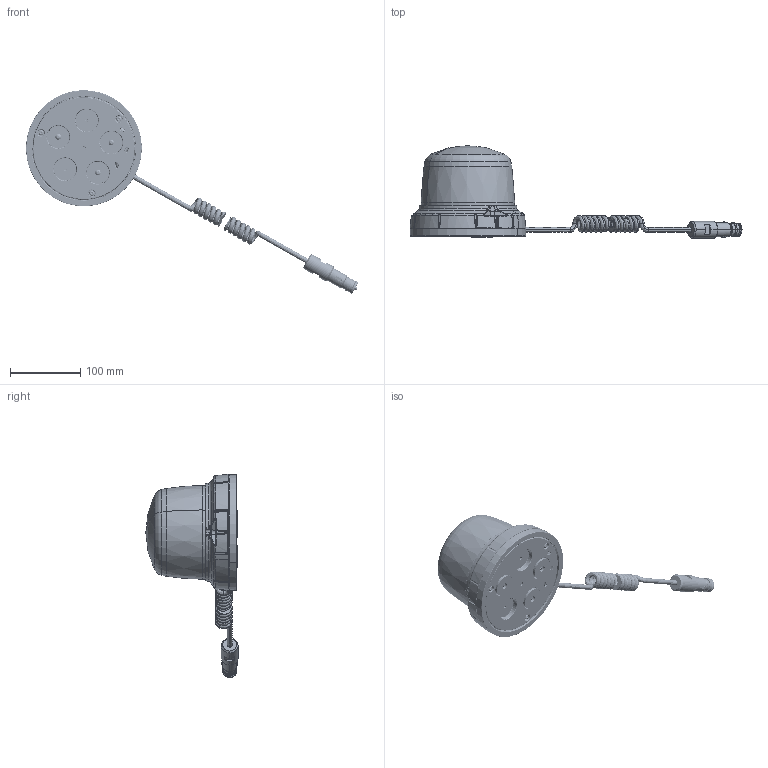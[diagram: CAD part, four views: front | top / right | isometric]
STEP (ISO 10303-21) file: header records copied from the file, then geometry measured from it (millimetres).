
FILE_DESCRIPTION(('CATIA V5 STEP Exchange','CAx-IF Rec.Pracs.--- Model Styling and Organization---1.5--- 2016-08-15','CAx-IF Rec.Pracs.---Supplemental Geometry---1.0---2011-11-01','CAx-IF Rec.Pracs.--- Composite Materials ---1.1---2010-07-15'),'2;1');
FILE_NAME('E:\tmp\ddx\2011221\HELLA_3D_data_Rota_LED_Compact_magnet_2XD-013-979-02.stp','2022-01-18T07:26:24+00:00',('none'),('none'),'CATIA Version 5-6 Release 2020 SP3 HF9','CATIA V5 STEP AP214 Edition 3 v2','none');
FILE_SCHEMA(('AUTOMOTIVE_DESIGN { 1 0 10303 214 3 1 1 1 }'));
Products named in the file (1): 10001952496_D10_001
Bounding box: 473.2 x 131.5 x 290.03 mm (x, y, z)
Volume: 1101313.5 mm3; surface area: 268951.4 mm2
Topology: 2 solids, 5 shells, 5714 faces, 15391 edges, 9599 vertices
Faces by surface type: plane 1568, bspline 1522, cylinder 911, torus 699, extrusion 429, cone 411, sphere 146, revolution 28
Entity records: 249198 total; most frequent: CARTESIAN_POINT 131549, ORIENTED_EDGE 30572, EDGE_CURVE 15286, DIRECTION 13540, VERTEX_POINT 9599, B_SPLINE_CURVE_WITH_KNOTS 8515, EDGE_LOOP 6056, AXIS2_PLACEMENT_3D 5943
